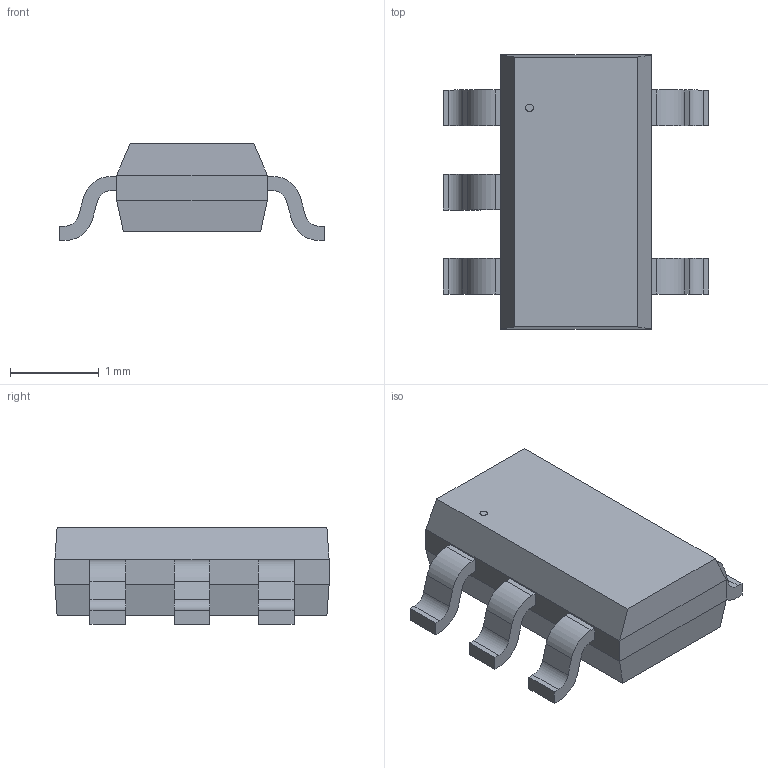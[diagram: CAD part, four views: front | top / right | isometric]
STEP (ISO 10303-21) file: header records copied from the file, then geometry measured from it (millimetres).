
FILE_DESCRIPTION(('STEP AP214'),'1');
FILE_NAME('SC-74A_SOT753_NEX','2025-05-01T02:48:13',(''),(''),'','','');
FILE_SCHEMA(('AUTOMOTIVE_DESIGN'));
Length unit declared in the file: millimetre
Products named in the file (1): product
Bounding box: 3 x 3.1 x 1.09 mm (x, y, z)
Volume: 5.3 mm3; surface area: 24.7 mm2
Topology: 7 solids, 7 shells, 87 faces, 211 edges, 138 vertices
Faces by surface type: plane 66, cylinder 21
Full cylindrical faces by diameter (mm): 0.085 x1
Entity records: 2577 total; most frequent: DIRECTION 430, ORIENTED_EDGE 420, CARTESIAN_POINT 249, EDGE_CURVE 210, LINE 168, VECTOR 168, VERTEX_POINT 138, AXIS2_PLACEMENT_3D 131
